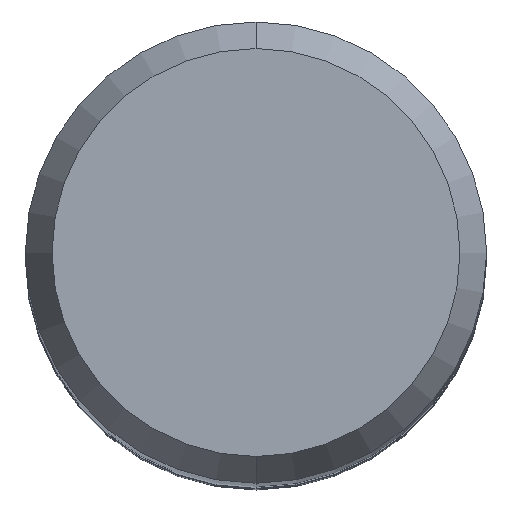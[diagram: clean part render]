
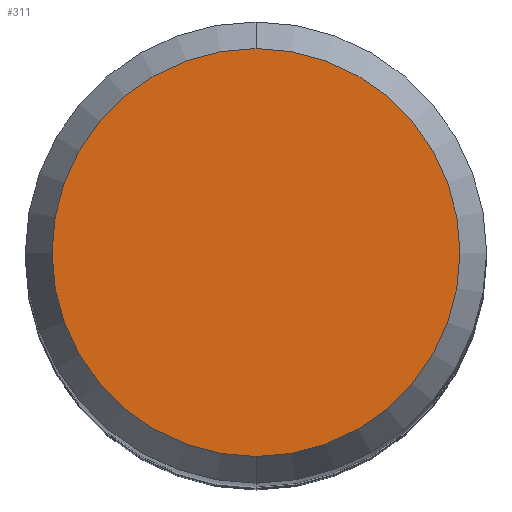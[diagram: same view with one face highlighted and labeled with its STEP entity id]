
A CAD part, top view. The second image highlights one B-rep face of the part: STEP entity #311.
In plain terms, the highlighted planar face has unit normal (0, 0, 1).
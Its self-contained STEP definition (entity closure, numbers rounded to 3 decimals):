
#245=VERTEX_POINT('',#655);
#271=VERTEX_POINT('',#686);
#293=EDGE_CURVE('',#245,#271,#711,.T.);
#311=ADVANCED_FACE('',(#731),#732,.T.);
#587=EDGE_CURVE('',#271,#245,#1037,.T.);
#655=CARTESIAN_POINT('',(0.,-3.538,0.0));
#686=CARTESIAN_POINT('',(0.0,3.538,0.0));
#711=CIRCLE('',#1198,3.538);
#731=FACE_OUTER_BOUND('',#1225,.T.);
#732=PLANE('',#1226);
#1037=CIRCLE('',#1828,3.538);
#1198=AXIS2_PLACEMENT_3D('',#1991,#1992,#1993);
#1225=EDGE_LOOP('',(#2017,#2018));
#1226=AXIS2_PLACEMENT_3D('',#2019,#2020,#2021);
#1828=AXIS2_PLACEMENT_3D('',#2343,#2344,#2345);
#1991=CARTESIAN_POINT('',(0.0,0.0,0.0));
#1992=DIRECTION('',(0.0,0.0,-1.0));
#1993=DIRECTION('',(0.0,1.0,0.0));
#2017=ORIENTED_EDGE('',*,*,#587,.F.);
#2018=ORIENTED_EDGE('',*,*,#293,.F.);
#2019=CARTESIAN_POINT('',(0.0,1.769,0.0));
#2020=DIRECTION('',(-0.0,0.0,1.0));
#2021=DIRECTION('',(0.0,-1.0,0.0));
#2343=CARTESIAN_POINT('',(0.0,0.0,0.0));
#2344=DIRECTION('',(0.0,0.0,-1.0));
#2345=DIRECTION('',(0.0,1.0,0.0));
